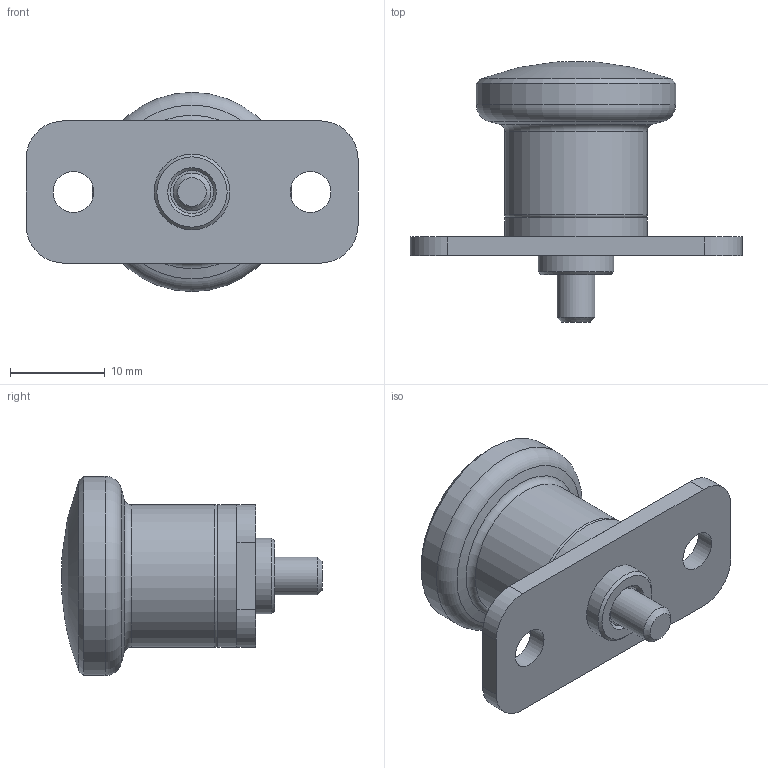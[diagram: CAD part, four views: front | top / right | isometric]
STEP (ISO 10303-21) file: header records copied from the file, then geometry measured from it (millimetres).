
FILE_DESCRIPTION( ( 'STEP AP203' ), '1' );
FILE_NAME( 'C:/Temp/Ganter_Step_05_03_2020/data/3_1/gn822_9/gn822_9_c/Stainless Steel-Mini indexing plunger GN 822.9-4-5-C (deactivated).stp', '2020-03-12T09:24:54', ( 'License CC BY-ND 4.0' ), ( 'CADENAS' ), ' ', 'PARTsolutions', ' ' );
FILE_SCHEMA( ( 'CONFIG_CONTROL_DESIGN' ) );
Length unit declared in the file: millimetre
Products named in the file (3): Stainless Steel-Mini indexing plunger GN 822.9-4-5-C (deactivated); _Stainless Steel-Mini indexing plunger GN 822.9-4-5-C (deactivated)_1; _Stainless Steel-Mini indexing plunger GN 822.9-4-5-C (deactivated)_2
Assembly tree (2 placements, depth 2):
  Stainless Steel-Mini indexing plunger GN 822.9-4-5-C (deactivated)
    _Stainless Steel-Mini indexing plunger GN 822.9-4-5-C (deactivated)_1
    _Stainless Steel-Mini indexing plunger GN 822.9-4-5-C (deactivated)_2
Bounding box: 35 x 27.43 x 21 mm (x, y, z)
Volume: 4939.2 mm3; surface area: 4215.7 mm2
Topology: 2 solids, 2 shells, 81 faces, 189 edges, 119 vertices
Faces by surface type: plane 47, cylinder 16, cone 14, torus 3, sphere 1
Full cylindrical faces by diameter (mm): 3 x1, 3.2 x1, 4 x1, 4.3 x2, 4.5 x2, 8 x1, 10 x1, 15 x2, 21 x1
Entity records: 2376 total; most frequent: CARTESIAN_POINT 510, DIRECTION 362, ORIENTED_EDGE 326, EDGE_CURVE 163, AXIS2_PLACEMENT_3D 133, EDGE_LOOP 118, VERTEX_POINT 117, FACE_OUTER_BOUND 97
